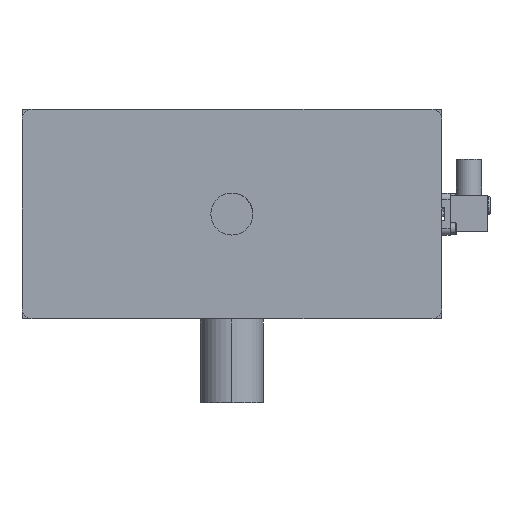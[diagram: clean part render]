
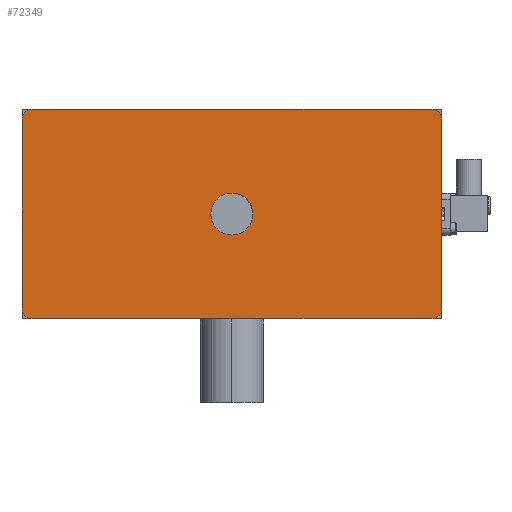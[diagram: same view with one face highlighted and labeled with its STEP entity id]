
A CAD part, front view. The second image highlights one B-rep face of the part: STEP entity #72349.
In plain terms, the highlighted planar face has unit normal (0, -1, 0).
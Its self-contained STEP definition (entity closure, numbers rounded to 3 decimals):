
#72221=CARTESIAN_POINT('Control Point',(10.,-218.,0.)) ;
#72222=CARTESIAN_POINT('Control Point',(10.,-218.,10.)) ;
#72223=CARTESIAN_POINT('Control Point',(0.,-218.,10.)) ;
#72224=CARTESIAN_POINT('Vertex',(0.,-218.,10.)) ;
#72226=CARTESIAN_POINT('Vertex',(10.,-218.,0.)) ;
#72253=CARTESIAN_POINT('Axis2P3D Location',(0.,-218.,0.)) ;
#72258=CARTESIAN_POINT('Line Origine',(-100.,-218.,0.)) ;
#72262=CARTESIAN_POINT('Vertex',(-100.,-218.,-45.)) ;
#72264=CARTESIAN_POINT('Vertex',(-100.,-218.,45.)) ;
#72267=CARTESIAN_POINT('Axis2P3D Location',(-95.,-218.,-45.)) ;
#72271=CARTESIAN_POINT('Vertex',(-95.,-218.,-50.)) ;
#72274=CARTESIAN_POINT('Line Origine',(0.,-218.,-50.)) ;
#72278=CARTESIAN_POINT('Vertex',(95.,-218.,-50.)) ;
#72281=CARTESIAN_POINT('Axis2P3D Location',(95.,-218.,-45.)) ;
#72285=CARTESIAN_POINT('Vertex',(100.,-218.,-45.)) ;
#72288=CARTESIAN_POINT('Line Origine',(100.,-218.,0.)) ;
#72292=CARTESIAN_POINT('Vertex',(100.,-218.,45.)) ;
#72295=CARTESIAN_POINT('Axis2P3D Location',(95.,-218.,45.)) ;
#72299=CARTESIAN_POINT('Vertex',(95.,-218.,50.)) ;
#72302=CARTESIAN_POINT('Line Origine',(0.,-218.,50.)) ;
#72306=CARTESIAN_POINT('Vertex',(-95.,-218.,50.)) ;
#72309=CARTESIAN_POINT('Axis2P3D Location',(-95.,-218.,45.)) ;
#72324=CARTESIAN_POINT('Axis2P3D Location',(0.,-218.,0.)) ;
#72328=CARTESIAN_POINT('Vertex',(0.,-218.,-10.)) ;
#72331=CARTESIAN_POINT('Axis2P3D Location',(0.,-218.,0.)) ;
#72335=CARTESIAN_POINT('Vertex',(-10.,-218.,0.)) ;
#72338=CARTESIAN_POINT('Axis2P3D Location',(0.,-218.,0.)) ;
#72254=DIRECTION('Axis2P3D Direction',(0.,1.,0.)) ;
#72255=DIRECTION('Axis2P3D XDirection',(1.,0.,0.)) ;
#72259=DIRECTION('Vector Direction',(0.,0.,1.)) ;
#72268=DIRECTION('Axis2P3D Direction',(0.,1.,0.)) ;
#72275=DIRECTION('Vector Direction',(-1.,0.,0.)) ;
#72282=DIRECTION('Axis2P3D Direction',(0.,1.,0.)) ;
#72289=DIRECTION('Vector Direction',(0.,0.,-1.)) ;
#72296=DIRECTION('Axis2P3D Direction',(0.,1.,0.)) ;
#72303=DIRECTION('Vector Direction',(1.,0.,0.)) ;
#72310=DIRECTION('Axis2P3D Direction',(0.,1.,0.)) ;
#72325=DIRECTION('Axis2P3D Direction',(0.,1.,0.)) ;
#72332=DIRECTION('Axis2P3D Direction',(0.,1.,0.)) ;
#72339=DIRECTION('Axis2P3D Direction',(0.,1.,0.)) ;
#72256=AXIS2_PLACEMENT_3D('Plane Axis2P3D',#72253,#72254,#72255) ;
#72269=AXIS2_PLACEMENT_3D('Circle Axis2P3D',#72267,#72268,$) ;
#72283=AXIS2_PLACEMENT_3D('Circle Axis2P3D',#72281,#72282,$) ;
#72297=AXIS2_PLACEMENT_3D('Circle Axis2P3D',#72295,#72296,$) ;
#72311=AXIS2_PLACEMENT_3D('Circle Axis2P3D',#72309,#72310,$) ;
#72326=AXIS2_PLACEMENT_3D('Circle Axis2P3D',#72324,#72325,$) ;
#72333=AXIS2_PLACEMENT_3D('Circle Axis2P3D',#72331,#72332,$) ;
#72340=AXIS2_PLACEMENT_3D('Circle Axis2P3D',#72338,#72339,$) ;
#72315=ORIENTED_EDGE('',*,*,#72266,.F.) ;
#72316=ORIENTED_EDGE('',*,*,#72273,.F.) ;
#72317=ORIENTED_EDGE('',*,*,#72280,.F.) ;
#72318=ORIENTED_EDGE('',*,*,#72287,.F.) ;
#72319=ORIENTED_EDGE('',*,*,#72294,.F.) ;
#72320=ORIENTED_EDGE('',*,*,#72301,.F.) ;
#72321=ORIENTED_EDGE('',*,*,#72308,.F.) ;
#72322=ORIENTED_EDGE('',*,*,#72313,.F.) ;
#72344=ORIENTED_EDGE('',*,*,#72330,.T.) ;
#72345=ORIENTED_EDGE('',*,*,#72337,.T.) ;
#72346=ORIENTED_EDGE('',*,*,#72342,.T.) ;
#72347=ORIENTED_EDGE('',*,*,#72228,.T.) ;
#72348=FACE_BOUND('',#72343,.T.) ;
#72260=VECTOR('Line Direction',#72259,1.) ;
#72276=VECTOR('Line Direction',#72275,1.) ;
#72290=VECTOR('Line Direction',#72289,1.) ;
#72304=VECTOR('Line Direction',#72303,1.) ;
#72349=ADVANCED_FACE('Boden Verkleidung',(#72323,#72348),#72257,.F.) ;
#72270=CIRCLE('generated circle',#72269,5.) ;
#72284=CIRCLE('generated circle',#72283,5.) ;
#72298=CIRCLE('generated circle',#72297,5.) ;
#72312=CIRCLE('generated circle',#72311,5.) ;
#72327=CIRCLE('generated circle',#72326,10.) ;
#72334=CIRCLE('generated circle',#72333,10.) ;
#72341=CIRCLE('generated circle',#72340,10.) ;
#72228=EDGE_CURVE('',#72225,#72227,#72220,.F.) ;
#72266=EDGE_CURVE('',#72263,#72265,#72261,.T.) ;
#72273=EDGE_CURVE('',#72272,#72263,#72270,.T.) ;
#72280=EDGE_CURVE('',#72279,#72272,#72277,.T.) ;
#72287=EDGE_CURVE('',#72286,#72279,#72284,.T.) ;
#72294=EDGE_CURVE('',#72293,#72286,#72291,.T.) ;
#72301=EDGE_CURVE('',#72300,#72293,#72298,.T.) ;
#72308=EDGE_CURVE('',#72307,#72300,#72305,.T.) ;
#72313=EDGE_CURVE('',#72265,#72307,#72312,.T.) ;
#72330=EDGE_CURVE('',#72227,#72329,#72327,.T.) ;
#72337=EDGE_CURVE('',#72329,#72336,#72334,.T.) ;
#72342=EDGE_CURVE('',#72336,#72225,#72341,.T.) ;
#72314=EDGE_LOOP('',(#72315,#72316,#72317,#72318,#72319,#72320,#72321,#72322)) ;
#72343=EDGE_LOOP('',(#72344,#72345,#72346,#72347)) ;
#72323=FACE_OUTER_BOUND('',#72314,.T.) ;
#72261=LINE('Line',#72258,#72260) ;
#72277=LINE('Line',#72274,#72276) ;
#72291=LINE('Line',#72288,#72290) ;
#72305=LINE('Line',#72302,#72304) ;
#72257=PLANE('Plane',#72256) ;
#72225=VERTEX_POINT('',#72224) ;
#72227=VERTEX_POINT('',#72226) ;
#72263=VERTEX_POINT('',#72262) ;
#72265=VERTEX_POINT('',#72264) ;
#72272=VERTEX_POINT('',#72271) ;
#72279=VERTEX_POINT('',#72278) ;
#72286=VERTEX_POINT('',#72285) ;
#72293=VERTEX_POINT('',#72292) ;
#72300=VERTEX_POINT('',#72299) ;
#72307=VERTEX_POINT('',#72306) ;
#72329=VERTEX_POINT('',#72328) ;
#72336=VERTEX_POINT('',#72335) ;
#72220=(BOUNDED_CURVE()B_SPLINE_CURVE(2,(#72221,#72222,#72223),.UNSPECIFIED.,.F.,.U.)B_SPLINE_CURVE_WITH_KNOTS((3,3),(0.,20.),.UNSPECIFIED.)CURVE()GEOMETRIC_REPRESENTATION_ITEM()RATIONAL_B_SPLINE_CURVE((1.,0.707,1.))REPRESENTATION_ITEM('')) ;
